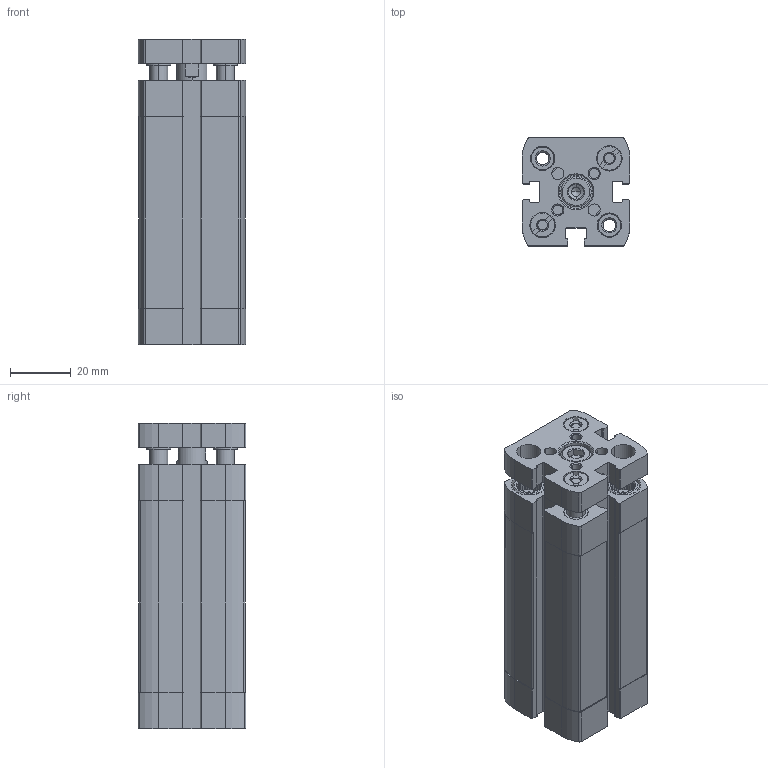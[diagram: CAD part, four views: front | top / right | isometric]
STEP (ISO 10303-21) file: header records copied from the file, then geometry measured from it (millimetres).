
FILE_DESCRIPTION (( 'STEP AP203' ), '1' );
FILE_NAME ('CCNG20-50.STEP', '2017-04-13T18:13:08', ( '' ), ( '' ), 'SwSTEP 2.0', 'SolidWorks 2016', '' );
FILE_SCHEMA (( 'CONFIG_CONTROL_DESIGN' ));
Length unit declared in the file: millimetre
Products named in the file (3): CCNG-20-50--(Z); CCNG-20-50---(KS); CCNG20-50
Assembly tree (2 placements, depth 2):
  CCNG20-50
    CCNG-20-50--(Z)
    CCNG-20-50---(KS)
Bounding box: 35.5 x 35.5 x 100.5 mm (x, y, z)
Volume: 86871.1 mm3; surface area: 41363.5 mm2
Topology: 2 solids, 6 shells, 598 faces, 1575 edges, 1025 vertices
Faces by surface type: plane 301, cylinder 214, cone 77, bspline 6
Entity records: 19170 total; most frequent: CARTESIAN_POINT 3736, DIRECTION 3263, ORIENTED_EDGE 3146, EDGE_CURVE 1573, AXIS2_PLACEMENT_3D 1226, VERTEX_POINT 1025, LINE 811, VECTOR 811
